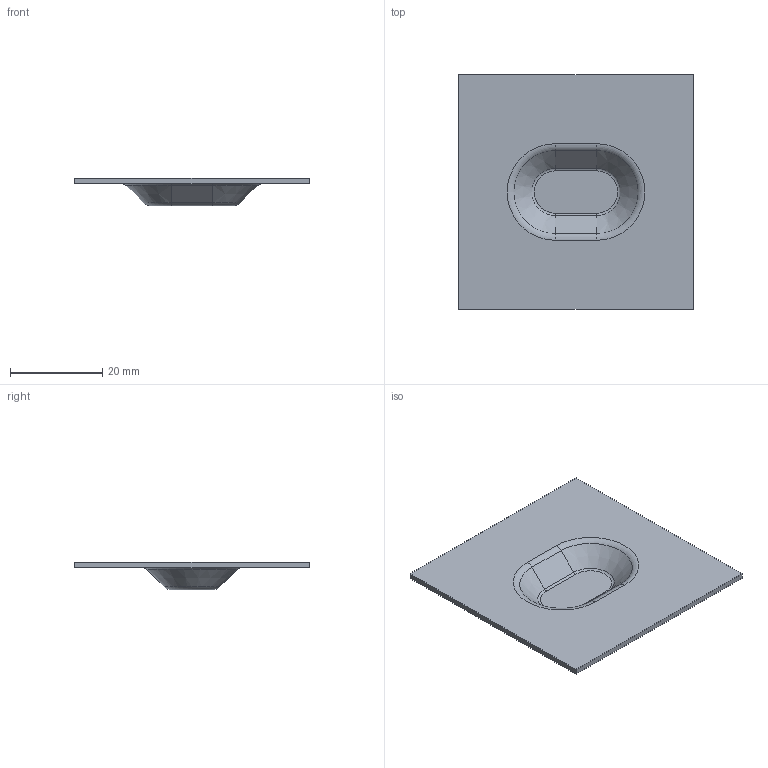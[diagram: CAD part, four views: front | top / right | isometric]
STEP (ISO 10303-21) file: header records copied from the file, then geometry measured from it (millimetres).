
FILE_DESCRIPTION((''),'1');
FILE_NAME('C:/Users/robertnolte/Desktop/216-0279.stp','2012-03-30T22:52:30',(''),(''),'Spatial Interop R21 SP3','Kubotek KeyCreator 2011 V10.5.0 (24766)',' ');
FILE_SCHEMA(('CONFIG_CONTROL_DESIGN'));
Length unit declared in the file: inch
Products named in the file (1): 1
Bounding box: 50.8 x 50.8 x 5.92 mm (x, y, z)
Volume: 3291 mm3; surface area: 5646.4 mm2
Topology: 1 solids, 1 shells, 32 faces, 68 edges, 40 vertices
Faces by surface type: plane 12, cylinder 8, torus 8, cone 4
Entity records: 900 total; most frequent: DIRECTION 166, CARTESIAN_POINT 141, ORIENTED_EDGE 136, EDGE_CURVE 68, AXIS2_PLACEMENT_3D 65, VERTEX_POINT 40, LINE 36, VECTOR 36
